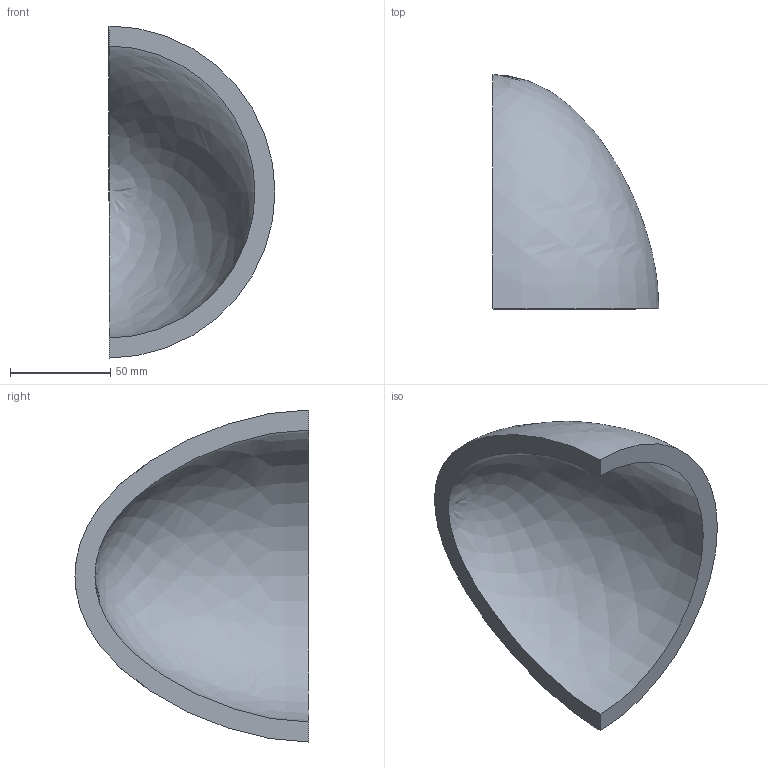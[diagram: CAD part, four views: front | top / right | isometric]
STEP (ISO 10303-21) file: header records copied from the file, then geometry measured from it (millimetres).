
FILE_DESCRIPTION(('CATIA V5 STEP Exchange'),'2;1');
FILE_NAME('C:\_Andres\UNIVERSIDAD\IQS\ASIGNATURAS\DAO\EXF\EXF-16172c\2inicio\Lopez_Triquell_Ej10_v17.stp','2017-03-05T22:31:12+00:00',('none'),('none'),'CATIA Version 5-6 Release 2014 SP1 HF18','CATIA V5 STEP AP203','none');
FILE_SCHEMA(('CONFIG_CONTROL_DESIGN'));
Length unit declared in the file: millimetre
Products named in the file (1): Lopez_Triquell_Ej10_v17
Bounding box: 83 x 117 x 166 mm (x, y, z)
Volume: 239505.1 mm3; surface area: 53422.3 mm2
Topology: 1 solids, 1 shells, 4 faces, 10 edges, 6 vertices
Faces by surface type: revolution 2, plane 2
Entity records: 239 total; most frequent: CARTESIAN_POINT 117, ORIENTED_EDGE 16, DIRECTION 10, EDGE_CURVE 8, B_SPLINE_CURVE_WITH_KNOTS 6, VERTEX_POINT 6, AXIS2_PLACEMENT_3D 5, ADVANCED_FACE 4
